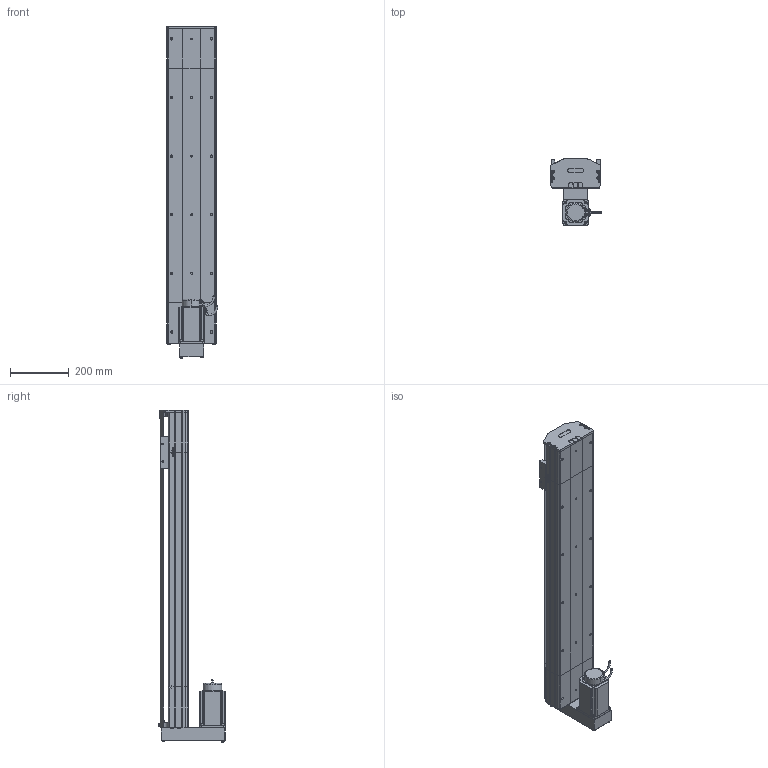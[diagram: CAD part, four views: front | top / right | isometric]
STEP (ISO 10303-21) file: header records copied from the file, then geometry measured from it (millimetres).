
FILE_DESCRIPTION (( 'STEP AP214' ), '1' );
FILE_NAME ('D17 TSN BM S800.STEP', '2010-06-30T07:42:14', ( 'Christophe Gaillard' ), ( 'SGA' ), 'SwSTEP 2.0', 'SolidWorks 2010', '' );
FILE_SCHEMA (( 'AUTOMOTIVE_DESIGN' ));
Length unit declared in the file: millimetre
Products named in the file (33): tete d''axe haut D17; codeur 90BLDC125-640; avant 90BLDC125A-640; Moteur motionking 90BLDC125A-640; corps 90BLDC125A-640; vis M5 L5_Default; Arbre+rail head D17; plaque de  bout BM head D17_Default; vis M5 L25_Default; vis M5 L8 90°_Default; couvercle D17_Default; couvercle D17 head_Default; corpl head D17 BM_Default; head BM_Default; Arbre+rail tail D17; guide D17; Chariot D17 TBN; renvoi Bm_Default; Vis M5 L16-2_Default; Conecteur_Default; chariot D17 TSN; Cvis M5 L70_Default; vis M5 L12_Default; Conecteur2_Default; arbre + rail D17 Course 800 ; course 800 D17_Default; D17 TSN BM S800; Tail D17_Default; couvercle D17 course L800_Default; corp D17 800_Default; tete d''axe bas D17; plaque de  bout tail D17_Default; corpl tail D17_Default
Assembly tree (51 placements, depth 4):
  D17 TSN BM S800
    course 800 D17_Default
      couvercle D17 course L800_Default
      corp D17 800_Default
      arbre + rail D17 Course 800 
    chariot D17 TSN
      guide D17  x2
      Chariot D17 TBN
    Tail D17_Default
      vis M5 L25_Default  x2
      vis M5 L8 90°_Default  x2
      vis M5 L12_Default  x4
      couvercle D17_Default
      plaque de  bout tail D17_Default
      Arbre+rail tail D17
      tete d''axe bas D17
      tete d''axe haut D17
      corpl tail D17_Default
    head BM_Default
      vis M5 L12_Default  x8
      plaque de  bout BM head D17_Default
      corpl head D17 BM_Default
      Cvis M5 L70_Default  x2
      Vis M5 L16-2_Default  x4
      renvoi Bm_Default
      Moteur motionking 90BLDC125A-640
        avant 90BLDC125A-640
        codeur 90BLDC125-640
        corps 90BLDC125A-640
        Conecteur2_Default
        Conecteur_Default
      couvercle D17 head_Default
      vis M5 L5_Default  x2
      Arbre+rail head D17
Bounding box: 174.95 x 225.7 x 1132.7 mm (x, y, z)
Volume: 7579130.1 mm3; surface area: 1923326.4 mm2
Topology: 75 solids, 75 shells, 2129 faces, 5395 edges, 3488 vertices
Faces by surface type: plane 1322, cylinder 546, bspline 136, torus 65, cone 56, sphere 4
Entity records: 71328 total; most frequent: CARTESIAN_POINT 22564, ORIENTED_EDGE 8698, DIRECTION 8114, EDGE_CURVE 4349, VECTOR 3026, LINE 3026, VERTEX_POINT 2854, AXIS2_PLACEMENT_3D 2544
